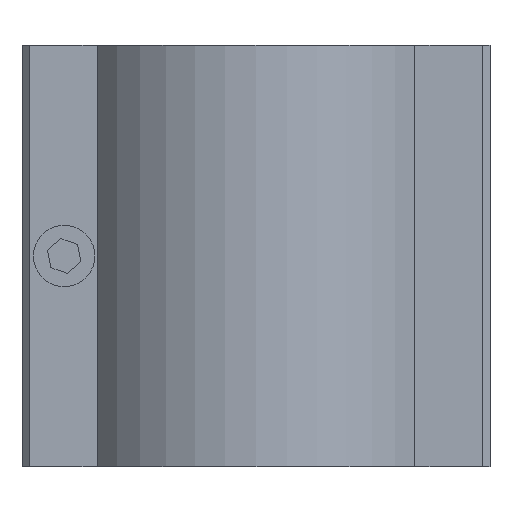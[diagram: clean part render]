
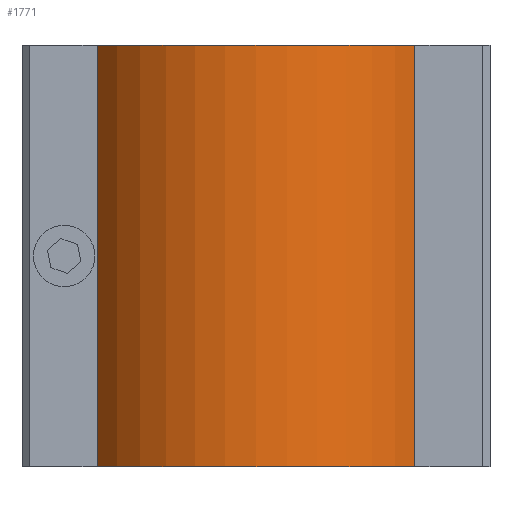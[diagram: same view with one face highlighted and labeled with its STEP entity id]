
A CAD part, front view. The second image highlights one B-rep face of the part: STEP entity #1771.
In plain terms, the highlighted cylindrical face has radius 50 mm (diameter 100 mm), a partial arc.
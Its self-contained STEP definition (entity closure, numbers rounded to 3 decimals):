
#1098=CARTESIAN_POINT('',(-42.133,-23.802,105.0));
#1099=VERTEX_POINT('',#1098);
#1106=CARTESIAN_POINT('',(40.716,-23.802,105.0));
#1107=VERTEX_POINT('',#1106);
#1108=CARTESIAN_POINT('',(-0.709,4.198,105.0));
#1109=DIRECTION('',(0.0,0.0,-1.));
#1110=DIRECTION('',(0.828,0.56,0.0));
#1111=AXIS2_PLACEMENT_3D('',#1108,#1109,#1110);
#1112=CIRCLE('',#1111,50.0);
#1113=EDGE_CURVE('',#1107,#1099,#1112,.T.);
#1666=CARTESIAN_POINT('',(40.716,-23.802,-5.));
#1667=VERTEX_POINT('',#1666);
#1674=CARTESIAN_POINT('',(-42.133,-23.802,-5.));
#1675=VERTEX_POINT('',#1674);
#1676=CARTESIAN_POINT('',(-0.709,4.198,-5.0));
#1677=DIRECTION('',(0.0,0.0,1.));
#1678=DIRECTION('',(0.828,0.56,0.0));
#1679=AXIS2_PLACEMENT_3D('',#1676,#1677,#1678);
#1680=CIRCLE('',#1679,50.0);
#1681=EDGE_CURVE('',#1675,#1667,#1680,.T.);
#1744=CARTESIAN_POINT('',(40.716,-23.802,105.0));
#1745=DIRECTION('',(0.0,0.0,-1.0));
#1746=VECTOR('',#1745,110.);
#1747=LINE('',#1744,#1746);
#1748=EDGE_CURVE('',#1107,#1667,#1747,.T.);
#1755=CARTESIAN_POINT('',(-0.709,4.198,50.0));
#1756=DIRECTION('',(0.0,0.0,1.0));
#1757=DIRECTION('',(0.828,0.56,0.0));
#1758=AXIS2_PLACEMENT_3D('',#1755,#1756,#1757);
#1759=CYLINDRICAL_SURFACE('',#1758,50.);
#1760=ORIENTED_EDGE('',*,*,#1113,.T.);
#1761=CARTESIAN_POINT('',(-42.133,-23.802,105.0));
#1762=DIRECTION('',(0.0,0.0,-1.0));
#1763=VECTOR('',#1762,110.);
#1764=LINE('',#1761,#1763);
#1765=EDGE_CURVE('',#1099,#1675,#1764,.T.);
#1766=ORIENTED_EDGE('',*,*,#1765,.T.);
#1767=ORIENTED_EDGE('',*,*,#1681,.T.);
#1768=ORIENTED_EDGE('',*,*,#1748,.F.);
#1769=EDGE_LOOP('',(#1760,#1766,#1767,#1768));
#1770=FACE_OUTER_BOUND('',#1769,.T.);
#1771=ADVANCED_FACE('',(#1770),#1759,.T.);
